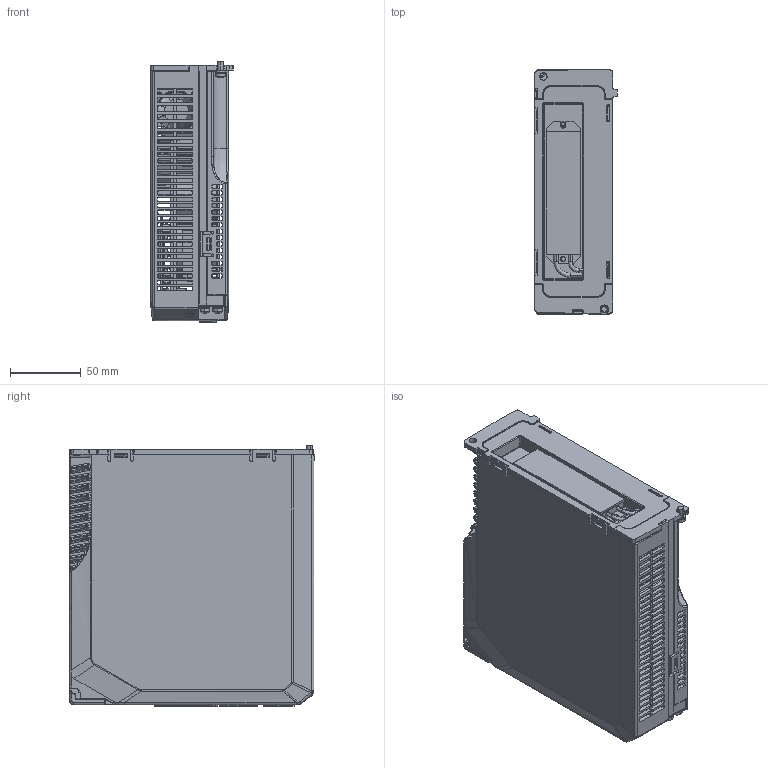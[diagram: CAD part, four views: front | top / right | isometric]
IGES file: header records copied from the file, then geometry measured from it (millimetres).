
Start section: SolidWorks IGES file using analytic representation for surfaces
Global section: file name: Z:\Products\Servo\08.2024\UNITRONICS\B5 & E5-S Drivers\200VAC ,Rated power:750W~1KW CanOPEN\200VAC ,Rated power:750W~1KW CanOPEN.IGS; native system: SolidWorks 2022; preprocessor: SolidWorks 2022; author: OfirZ; date: 240912.135807; units: millimetre
Bounding box: 58 x 172.83 x 183.3 mm (x, y, z)
Surface area: 273753.6 mm2 (no closed solid volume)
Topology: 0 solids, 0 shells, 3017 faces, 34438 edges, 34377 vertices
Faces by surface type: bspline 1914, revolution 1103
